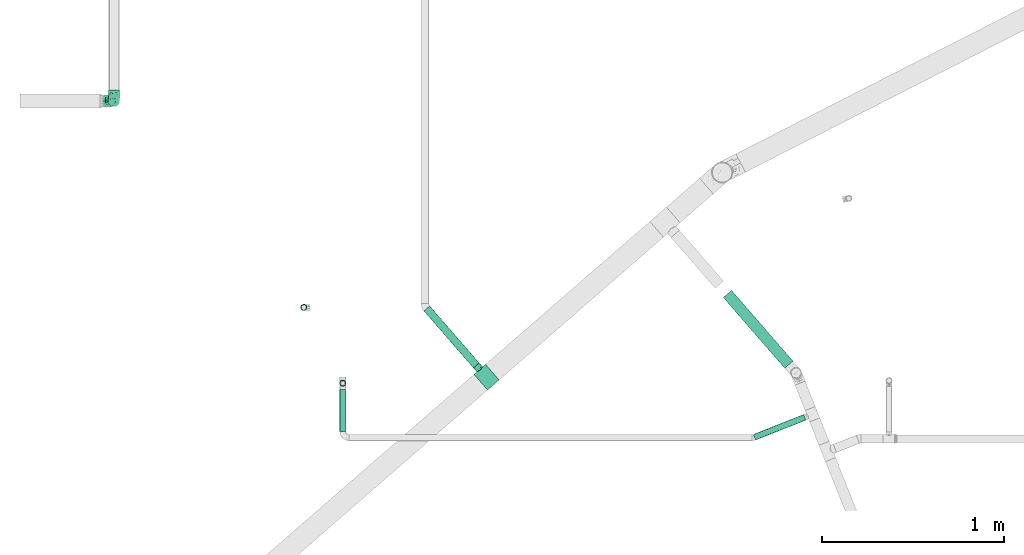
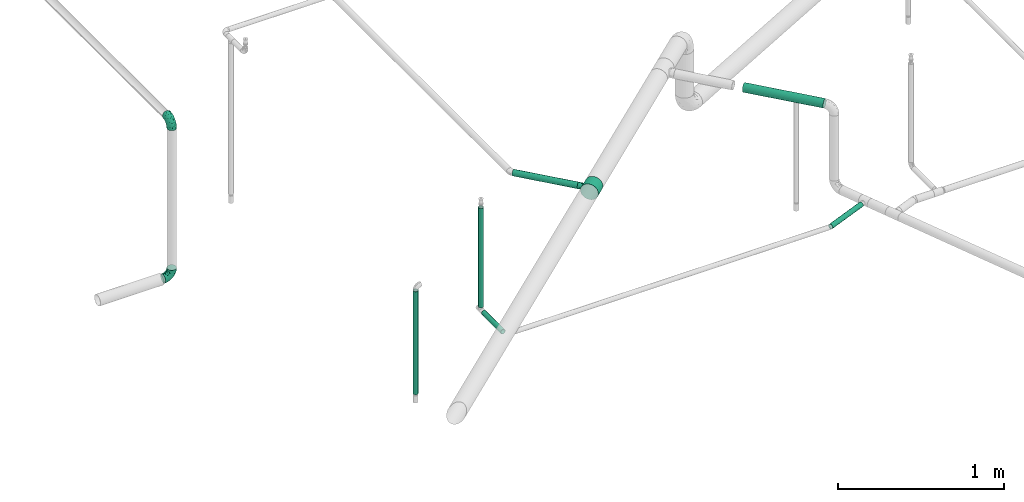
# One storey, part 8 of 94: 6 flow segments, 3 flow fittings.
"""IFC2X3 building model written with IfcOpenShell, lengths in millimetres."""

import ifcopenshell
import ifcopenshell.guid

model = None  # the IFC model being written
_history = None  # IfcOwnerHistory: only IFC2X3 demands one
_inside = {}  # id of a spatial element -> (the spatial element, [elements in it])
_under = {}  # id of a project, library or spatial element -> (it, [spatial elements below it])
_declared = {}  # id of a project -> (the project, [libraries it declares])
_typed = {}  # id of a type object -> (the type object, [elements of that type])
_made_of = {}  # id of a material, layer set ... -> (it, [elements and type objects made of it])


def new_model(schema):
    """Start an empty IFC model of exactly this schema.

    Asked for "IFC4X3", IfcOpenShell would pick the latest addendum, in which some entities
    have other attributes; the version numbers below select the first issue.
    IFC2X3 requires an IfcOwnerHistory on every rooted entity: one is made here for all.
    """
    global model, _history
    if schema == "IFC4X3":
        model = ifcopenshell.file(schema_version=(4, 3, 0, 0))
    else:
        model = ifcopenshell.file(schema=schema)
    _inside.clear()
    _under.clear()
    _declared.clear()
    _typed.clear()
    _made_of.clear()
    _history = None
    if model.schema == "IFC2X3":
        org = make("IfcOrganization", Name="unknown")
        user = make(
            "IfcPersonAndOrganization",
            ThePerson=make("IfcPerson", FamilyName="unknown"),
            TheOrganization=org,
        )
        app = make(
            "IfcApplication",
            ApplicationDeveloper=org,
            Version="unknown",
            ApplicationFullName="unknown",
            ApplicationIdentifier="unknown",
        )
        _history = make(
            "IfcOwnerHistory",
            OwningUser=user,
            OwningApplication=app,
            ChangeAction="ADDED",
            CreationDate=0,
        )
    return model


def make(cls, **values):
    """One entity of the class cls with the attributes given. An attribute that is None is left unset."""
    return model.create_entity(
        cls, **{name: value for name, value in values.items() if value is not None}
    )


def entity(cls, *values):
    """Any entity or typed value of the class cls, its attributes in the order of the schema. None: left unset."""
    e = model.create_entity(cls)
    for i, value in enumerate(values):
        if value is not None:
            e[i] = value
    return e


def rooted(cls, **values):
    """An entity with a GlobalId (a new one), such as an element, a storey or a relation."""
    return make(cls, GlobalId=ifcopenshell.guid.new(), OwnerHistory=_history, **values)


def si_unit(unit_type, name, prefix=None):
    """IfcSIUnit, for example si_unit("LENGTHUNIT", "METRE", prefix="MILLI")."""
    return make("IfcSIUnit", UnitType=unit_type, Prefix=prefix, Name=name)


def converted_unit(unit_type, name, factor, base, dimensions=None, offset=None):
    """IfcConversionBasedUnit, such as the inch: factor (a typed value) times the base unit."""
    return make(
        "IfcConversionBasedUnit"
        if offset is None
        else "IfcConversionBasedUnitWithOffset",
        ConversionOffset=offset,
        Dimensions=None
        if dimensions is None
        else entity("IfcDimensionalExponents", *dimensions),
        UnitType=unit_type,
        Name=name,
        ConversionFactor=make(
            "IfcMeasureWithUnit", ValueComponent=factor, UnitComponent=base
        ),
    )


def derived_unit(unit_type, elements):
    """IfcDerivedUnit: a product of units, each with its exponent."""
    return make(
        "IfcDerivedUnit",
        Elements=[
            make("IfcDerivedUnitElement", Unit=unit, Exponent=power)
            for unit, power in elements
        ],
        UnitType=unit_type,
    )


def assignment(units):
    """IfcUnitAssignment: the units of a project."""
    return None if units is None else make("IfcUnitAssignment", Units=units)


def point(xyz):
    """IfcCartesianPoint."""
    return None if xyz is None else make("IfcCartesianPoint", Coordinates=xyz)


def direction(xyz):
    """IfcDirection."""
    return None if xyz is None else make("IfcDirection", DirectionRatios=xyz)


def frame(location, z_axis=None, x_axis=None):
    """IfcAxis2Placement3D, a coordinate frame: its origin and axes. An axis left out is left unset."""
    return make(
        "IfcAxis2Placement3D",
        Location=point(location),
        Axis=direction(z_axis),
        RefDirection=direction(x_axis),
    )


def frame_2d(location, x_axis=None):
    """IfcAxis2Placement2D, a coordinate frame in the plane: its origin and x axis."""
    return make(
        "IfcAxis2Placement2D", Location=point(location), RefDirection=direction(x_axis)
    )


def origin_with_axes():
    """The frame at (0, 0, 0) with the z axis (0, 0, 1) and the x axis (1, 0, 0) written out."""
    return frame((0.0, 0.0, 0.0), z_axis=(0.0, 0.0, 1.0), x_axis=(1.0, 0.0, 0.0))


def origin_2d_with_axis():
    """The frame at (0, 0) in the plane with the x axis (1, 0) written out."""
    return frame_2d((0.0, 0.0), x_axis=(1.0, 0.0))


def place(relative_to, where):
    """IfcLocalPlacement: puts the frame where relative to a parent placement (None: the world)."""
    return make(
        "IfcLocalPlacement", PlacementRelTo=relative_to, RelativePlacement=where
    )


def context(
    kind, dimensions, precision=None, world=None, true_north=None, identifier=None
):
    """IfcGeometricRepresentationContext, for example the 3D "Model" context."""
    return make(
        "IfcGeometricRepresentationContext",
        ContextIdentifier=identifier,
        ContextType=kind,
        CoordinateSpaceDimension=dimensions,
        Precision=precision,
        WorldCoordinateSystem=world,
        TrueNorth=true_north,
    )


def subcontext(parent, identifier, kind, view, scale=None):
    """IfcGeometricRepresentationSubContext, for example "Body" below "Model"."""
    return make(
        "IfcGeometricRepresentationSubContext",
        ContextIdentifier=identifier,
        ContextType=kind,
        ParentContext=parent,
        TargetScale=scale,
        TargetView=view,
    )


def project(units=None, contexts=None):
    """IfcProject with its units and contexts."""
    return rooted(
        "IfcProject",
        Name="project",
        RepresentationContexts=contexts,
        UnitsInContext=assignment(units),
    )


def spatial(cls, under=None, at=None, **own):
    """A site, building, storey or space (cls), placed at a placement, below another one or the project."""
    s = rooted(cls, ObjectPlacement=at, **own)
    if under is not None:
        _under.setdefault(under.id(), (under, []))[1].append(s)
    return s


def profile(cls, at=None, kind="AREA", **sizes):
    """A parametric profile (cls). Its sizes go by their IFC names, for example OverallWidth=200.0."""
    return make(cls, ProfileType=kind, Position=at, **sizes)


def hollow_circle(**sizes):
    """IfcCircleHollowProfileDef."""
    return profile("IfcCircleHollowProfileDef", **sizes)


def extrude(swept, where, along, depth):
    """IfcExtrudedAreaSolid: the profile swept, set in the frame where, extruded along a direction by depth."""
    return make(
        "IfcExtrudedAreaSolid",
        SweptArea=swept,
        Position=where,
        ExtrudedDirection=direction(along),
        Depth=depth,
    )


def faces_of(points, faces, orient=None, outer=None):
    """IfcFace entities. A face is a list of loops; a loop is a list of indices into points, from 0.

    orient and outer hold one flag for each loop. By default every Orientation is true, the
    first loop of a face is its IfcFaceOuterBound and the others are IfcFaceBound.
    """
    made = []
    for i, loops in enumerate(faces):
        bounds = []
        for j, loop in enumerate(loops):
            is_outer = j == 0 if outer is None else outer[i][j]
            bounds.append(
                make(
                    "IfcFaceOuterBound" if is_outer else "IfcFaceBound",
                    Bound=make("IfcPolyLoop", Polygon=[points[k] for k in loop]),
                    Orientation=True if orient is None else orient[i][j],
                )
            )
        made.append(make("IfcFace", Bounds=bounds))
    return made


def open_shell(faces, orient=None, outer=None):
    """The faces of one IfcOpenShell. surface_model builds it on its shared points."""
    return ("IfcOpenShell", faces, orient, outer)


def surface_model(cls, points, shells):
    """IfcFaceBasedSurfaceModel or IfcShellBasedSurfaceModel (cls): surfaces that need not close."""
    shared = [point(p) for p in points]
    made = [make(c, CfsFaces=faces_of(shared, fs, o, b)) for c, fs, o, b in shells]
    if cls == "IfcFaceBasedSurfaceModel":
        return make(cls, FbsmFaces=made)
    return make(cls, SbsmBoundary=made)


def shape(context_of_items, identifier, shape_type, items):
    """IfcShapeRepresentation: the items that make up one representation, for example the "Body"."""
    return make(
        "IfcShapeRepresentation",
        ContextOfItems=context_of_items,
        RepresentationIdentifier=identifier,
        RepresentationType=shape_type,
        Items=items,
    )


def source(mapping_origin, context_of_items, identifier, shape_type, items):
    """IfcRepresentationMap: a shape defined once, which mapped items show again and again."""
    return make(
        "IfcRepresentationMap",
        MappingOrigin=mapping_origin,
        MappedRepresentation=shape(context_of_items, identifier, shape_type, items),
    )


def transform(
    local_origin,
    x_axis=None,
    y_axis=None,
    z_axis=None,
    scale=None,
    scale2=None,
    scale3=None,
    uniform=True,
):
    """IfcCartesianTransformationOperator3D, or its non-uniform kind. x_axis, y_axis, z_axis: its Axis1, 2, 3."""
    if uniform:
        return make(
            "IfcCartesianTransformationOperator3D",
            Axis1=direction(x_axis),
            Axis2=direction(y_axis),
            LocalOrigin=point(local_origin),
            Scale=scale,
            Axis3=direction(z_axis),
        )
    return make(
        "IfcCartesianTransformationOperator3DnonUniform",
        Axis1=direction(x_axis),
        Axis2=direction(y_axis),
        LocalOrigin=point(local_origin),
        Scale=scale,
        Axis3=direction(z_axis),
        Scale2=scale2,
        Scale3=scale3,
    )


def mapped(mapping_source, mapping_target):
    """IfcMappedItem: shows the shape of a source again, moved by a transform."""
    return make(
        "IfcMappedItem", MappingSource=mapping_source, MappingTarget=mapping_target
    )


def made_of(thing, what):
    """Note that an element or type object is made of a material, layer set ...; save() writes the relation."""
    if what is not None:
        _made_of.setdefault(what.id(), (what, []))[1].append(thing)
    return thing


def type_object(cls, material=None, **own):
    """A type object (cls), such as IfcWallType, which elements share."""
    return made_of(rooted(cls, **own), material)


def element(
    cls,
    number,
    at=None,
    inside=None,
    cuts=None,
    type_object=None,
    material=None,
    context=None,
    identifier="Body",
    shape_type=None,
    held_by="IfcProductDefinitionShape",
    body=None,
    shapes=None,
    **own,
):
    """One element of the class cls, such as IfcWall. Its Tag is "e" and its number.

    at: its placement. inside: the storey or other place that contains it. cuts: it is an
    opening in that element (IfcRelVoidsElement). A single representation is given by context,
    identifier, shape_type and body (its items); several are given by shapes. held_by: the class
    of the entity that holds the representations. save() writes the other relations.
    """
    e = rooted(cls, Tag="e%d" % number, ObjectPlacement=at, **own)
    if body is not None:
        shapes = [shape(context, identifier, shape_type, body)]
    if shapes is not None:
        e.Representation = make(held_by, Representations=shapes)
    if inside is not None:
        _inside.setdefault(inside.id(), (inside, []))[1].append(e)
    if cuts is not None:
        rooted(
            "IfcRelVoidsElement", RelatingBuildingElement=cuts, RelatedOpeningElement=e
        )
    if type_object is not None:
        _typed.setdefault(type_object.id(), (type_object, []))[1].append(e)
    return made_of(e, material)


def aggregate(whole, parts):
    """IfcRelAggregates: a whole, such as a stair, and the parts it consists of."""
    return rooted("IfcRelAggregates", RelatingObject=whole, RelatedObjects=parts)


def save(model, path):
    """Write the relations noted so far, then the file.

    IfcRelAggregates (storeys below a building ...), IfcRelContainedInSpatialStructure (elements
    in a storey), IfcRelDefinesByType, IfcRelAssociatesMaterial and IfcRelDeclares: one each for
    every whole, place, type object, material and project.
    """
    for whole, parts in _under.values():
        aggregate(whole, parts)
    for where, things in _inside.values():
        rooted(
            "IfcRelContainedInSpatialStructure",
            RelatedElements=things,
            RelatingStructure=where,
        )
    for kind, things in _typed.values():
        rooted("IfcRelDefinesByType", RelatedObjects=things, RelatingType=kind)
    for what, things in _made_of.values():
        rooted("IfcRelAssociatesMaterial", RelatedObjects=things, RelatingMaterial=what)
    for by, libraries in _declared.values():
        rooted("IfcRelDeclares", RelatingContext=by, RelatedDefinitions=libraries)
    model.write(path)


model = new_model("IFC2X3")

# Units and contexts
model_context = context("Model", 3, precision=0.01, world=frame((0.0, 4.29681676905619e-09, 0.0)), true_north=direction((4.01073788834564e-13, 1.0)))
plan_context = context("Plan", 3, precision=0.01, world=frame((0.0, 4.29681676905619e-09, 0.0)), true_north=direction((4.01073788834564e-13, 1.0)))
body_context = subcontext(model_context, "Body", "Model", "MODEL_VIEW")
ifc_project = project(units=[converted_unit("PLANEANGLEUNIT", "DEGREE", entity("IfcPositiveLengthMeasure", 0.0174532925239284), si_unit("PLANEANGLEUNIT", "RADIAN"), dimensions=[0, 0, 0, 0, 0, 0, 0]), si_unit("AREAUNIT", "SQUARE_METRE"), si_unit("LENGTHUNIT", "METRE", prefix="MILLI"), si_unit("MASSUNIT", "GRAM", prefix="KILO"), si_unit("POWERUNIT", "WATT"), si_unit("PRESSUREUNIT", "PASCAL", prefix="KILO"), si_unit("FORCEUNIT", "NEWTON", prefix="KILO"), si_unit("ELECTRICVOLTAGEUNIT", "VOLT"), si_unit("ELECTRICCURRENTUNIT", "AMPERE"), si_unit("THERMODYNAMICTEMPERATUREUNIT", "DEGREE_CELSIUS"), si_unit("TIMEUNIT", "SECOND"), si_unit("VOLUMEUNIT", "CUBIC_METRE"), derived_unit("LINEARVELOCITYUNIT", [(si_unit("LENGTHUNIT", "METRE"), 1), (si_unit("TIMEUNIT", "SECOND"), -1)]), derived_unit("VOLUMETRICFLOWRATEUNIT", [(si_unit("VOLUMEUNIT", "CUBIC_METRE"), 1), (si_unit("TIMEUNIT", "SECOND"), -1)]), derived_unit("THERMALTRANSMITTANCEUNIT", [(si_unit("POWERUNIT", "WATT"), 1), (si_unit("THERMODYNAMICTEMPERATUREUNIT", "KELVIN"), -1), (si_unit("AREAUNIT", "SQUARE_METRE"), -1)]), derived_unit("SOUNDPRESSUREUNIT", [(si_unit("PRESSUREUNIT", "PASCAL"), 1)])], contexts=[model_context, plan_context])

# Site, building, storey
site_placement = place(None, frame((0.0, -4.29681676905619e-09, 0.0), z_axis=(0.0, 0.0, 1.0), x_axis=(1.0, 0.0, 0.0)))
site = spatial("IfcSite", under=ifc_project, at=site_placement, CompositionType="ELEMENT")
building_placement = place(site_placement, frame((0.0, 4.29681676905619e-09, 0.0), z_axis=(0.0, 0.0, 1.0), x_axis=(1.0, 0.0, 0.0)))
building = spatial("IfcBuilding", under=site, at=building_placement, Name="mc-building", CompositionType="ELEMENT")
storey_placement = place(building_placement, frame((0.0, 0.0, 210900.0), z_axis=(0.0, 0.0, 1.0), x_axis=(1.0, 0.0, 0.0)))
storey = spatial("IfcBuildingStorey", under=building, at=storey_placement, Name="Nivå F", CompositionType="ELEMENT", Elevation=210900.0)

# Flow fittings
pipe_fitting_type_1 = type_object("IfcPipeFittingType", Name="magi_pipe_fe_elbow_short_001", PredefinedType="BEND")
shared_shape_1 = source(origin_with_axes(), body_context, "Body", "SurfaceModel", [
    surface_model("IfcShellBasedSurfaceModel", [(-60.4, 15.1, -26.15397), (-60.4, 7.81634, -29.17096), (-60.4, 0.0, -30.2), (-60.4, -21.35462, -21.35462), (-60.4, 26.15397, -15.1), (-60.4, 21.35462, -21.35462), (-60.4, 29.17096, -7.81634), (-60.4, -15.1, -26.15397), (-60.4, -7.81634, -29.17096), (-60.4, -26.15397, -15.1), (-60.4, -29.17096, -7.81634), (-60.4, -30.2, 0.0), (-60.4, -29.17096, 7.81634), (-60.4, 29.17096, 7.81634), (-60.4, -21.35462, 21.35462), (-60.4, 26.15397, 15.1), (-60.4, 21.35462, 21.35462), (-60.4, 7.81634, 29.17096), (-60.4, 15.1, 26.15397), (-60.4, -26.15397, 15.1), (-60.4, -7.81634, 29.17096), (-60.4, 0.0, 30.2), (-60.4, -15.1, 26.15397), (-60.4, 30.2, 0.0), (0.0, 60.4, -30.2), (-7.81634, 60.4, -29.17096), (-15.1, 60.4, -26.15397), (-26.15397, 60.4, -15.1), (-29.17096, 60.4, -7.81634), (-21.35462, 60.4, -21.35462), (29.17096, 60.4, -7.81634), (7.81634, 60.4, -29.17096), (21.35462, 60.4, -21.35462), (15.1, 60.4, -26.15397), (26.15397, 60.4, -15.1), (29.17096, 60.4, 7.81634), (30.2, 60.4, 0.0), (-29.17096, 60.4, 7.81634), (21.35462, 60.4, 21.35462), (-21.35462, 60.4, 21.35462), (-26.15397, 60.4, 15.1), (-15.1, 60.4, 26.15397), (-7.81634, 60.4, 29.17096), (26.15397, 60.4, 15.1), (15.1, 60.4, 26.15397), (0.0, 60.4, 30.2), (7.81634, 60.4, 29.17096), (-30.2, 60.4, 0.0), (-40.79975, -26.48639, 9.49143), (-44.2927, -23.46036, 16.95222), (-32.40306, -25.76572, 0.0), (-45.54716, -27.84754, 0.0), (-7.73382, -10.42985, 11.64553), (-2.102, -8.06735, 6.35117), (1.74449, -1.74448, 12.51332), (-46.13593, -4.00068, 29.68351), (-42.2898, 4.62925, 30.14853), (10.31662, 7.37496, 11.34434), (18.44156, 24.57514, 15.02148), (7.07276, 10.95732, 19.27498), (-30.06693, -0.27102, 29.27145), (-44.17726, -11.39441, 27.16031), (-23.4551, -7.13383, 25.24246), (-38.74025, -17.25266, 22.43475), (-27.059, -23.14697, 6.2131), (-19.77486, -19.33133, 0.0), (-10.95732, -7.07276, 19.27498), (-5.39458, 5.39458, 24.69106), (-29.52069, 48.20084, 13.12597), (-25.22813, 47.01796, 19.8404), (-11.27311, 52.093, 28.2877), (-4.13904, 45.17494, 30.12582), (-46.55352, 11.8443, 28.52822), (-7.88305, 20.22717, 29.65331), (-15.00576, 5.54025, 28.20072), (-3.0852, 16.31623, 27.75343), (-52.24998, 18.2886, 24.60768), (-10.49591, 29.69865, 30.14582), (-22.36958, 22.36958, 29.4662), (-17.98262, 13.19715, 30.04443), (-47.74519, 32.16745, 6.63994), (-48.21585, 29.51581, 13.12396), (-37.49729, 37.49729, 11.28901), (-47.20967, 25.1754, 19.81929), (17.25266, 38.74025, 22.43475), (-31.32046, 40.03273, 17.09289), (11.39441, 44.17725, 27.16031), (23.46036, 44.2927, 16.95222), (26.48639, 40.79975, 9.49143), (-7.14666, -12.89694, 0.0), (-14.66463, -16.61192, 7.82462), (4.00068, 46.13593, 29.68351), (-33.18602, 12.93608, 29.65955), (-29.63414, 7.40029, 30.18711), (19.33133, 19.77486, 0.0), (23.14697, 27.059, 6.2131), (16.61192, 14.66463, 7.82462), (27.84754, 45.54716, 0.0), (-32.10611, 20.49149, 27.93323), (-24.57514, -18.44156, 15.02148), (-21.89487, 39.03366, 25.38224), (-18.45005, 50.6405, 24.73297), (-31.78933, 48.71949, 6.47886), (-37.84917, 39.61073, 5.315), (13.91334, 24.32737, 20.46816), (7.13383, 23.4551, 25.24246), (-34.24603, 45.3, 0.0), (-27.95749, 31.89166, 24.81537), (-41.58677, 20.50028, 25.43151), (-0.46157, 0.46157, 17.84239), (-17.23338, 31.26213, 29.03145), (-24.05994, 29.23812, 27.47858), (-13.06094, 40.92174, 28.76128), (-31.83392, 33.72702, 21.39203), (-38.78737, 32.45032, 16.84022), (0.27102, 30.06693, 29.27145), (-24.21469, -13.23741, 21.05734), (8.23548, 2.19333, 6.02161), (25.76572, 32.40306, 0.0), (12.89694, 7.14666, 0.0), (-45.3, 34.24603, 0.0), (2.87514, -2.87514, 0.0), (-44.53432, 26.00869, -20.11577), (-48.18822, 29.5248, -13.12766), (-24.67192, -7.62159, -25.33714), (-26.22398, -0.37671, -28.72374), (-12.13397, -0.50536, -24.74577), (-47.80891, 3.81859, -30.10171), (-44.05719, -27.03585, -9.84546), (-37.94552, -22.39569, -16.35738), (-28.81663, -22.64668, -10.132), (-43.93799, 12.32789, -28.63778), (-33.27, 7.1392, -30.19348), (-26.0087, 44.53432, -20.11577), (-48.89164, 31.68872, -6.60822), (-18.95522, 47.41145, -24.9828), (-12.32789, 43.93799, -28.63778), (-38.42778, 38.42778, -7.21049), (18.04263, 43.69152, -22.80146), (10.42233, 38.24532, -26.85918), (11.90576, 51.00473, -27.48545), (-5.88381, -10.62327, -7.95335), (-5.9694, -7.83116, -13.76182), (3.24899, -2.56331, -7.96861), (-17.62229, 16.32998, -30.18286), (-28.62959, 17.86952, -29.30113), (-47.41145, 18.95522, -24.98279), (-50.84455, -24.04089, -17.54629), (-29.38053, 34.30665, -22.74674), (-27.91099, 27.91099, -26.51666), (-36.91219, 25.51094, -23.99233), (2.63361, -0.55507, -12.94367), (-43.69152, -18.04263, -22.80146), (22.39569, 37.94552, -16.35738), (27.03585, 44.05719, -9.84546), (22.64668, 28.81663, -10.132), (-51.00473, -11.90576, -27.48545), (3.80785, 44.49426, -29.64782), (-19.0921, -14.69952, -16.47487), (-22.5489, -12.31934, -21.1263), (-10.94772, -7.46239, -18.88204), (-32.95885, -13.78948, -23.71249), (-38.24532, -10.42233, -26.85918), (-44.49427, -3.80785, -29.64782), (-22.6301, 37.15314, -25.58239), (-31.68872, 48.89164, -6.60822), (-3.8186, 47.80891, -30.10171), (-10.66133, 10.66133, -28.51691), (0.37671, 26.22398, -28.72374), (1.27136, 14.18619, -25.18541), (-29.5248, 48.18821, -13.12766), (-36.27113, 36.27113, -14.88553), (24.04089, 50.84455, -17.54629), (17.50188, 24.2636, -16.21902), (9.73525, 11.44907, -16.75087), (12.31934, 22.5489, -21.1263), (6.24176, 25.78208, -26.38266), (-7.1392, 33.27, -30.19348), (-36.7166, 19.4356, -27.21946), (-18.00754, 29.38864, -29.15505), (-0.28629, 0.28629, -17.49884), (-13.98848, -16.88492, -5.19509), (15.48569, 15.00432, -11.24742), (16.88492, 13.98848, -5.19509), (3.55782, 9.20508, -21.18402), (-15.00432, -15.48569, -11.24742)], [open_shell([[[0, 1, 2]], [[0, 2, 3]], [[4, 0, 3]], [[5, 0, 4]], [[6, 4, 3]], [[7, 3, 8]], [[3, 2, 8]], [[9, 10, 3]], [[3, 10, 6]], [[11, 12, 10]], [[13, 6, 10]], [[13, 10, 14]], [[15, 13, 16]], [[17, 18, 16]], [[13, 17, 16]], [[17, 13, 14]], [[19, 14, 12]], [[12, 14, 10]], [[20, 21, 22]], [[17, 14, 22]], [[17, 22, 21]], [[13, 23, 6]], [[24, 25, 26]], [[24, 26, 27]], [[27, 28, 24]], [[27, 26, 29]], [[24, 28, 30]], [[31, 32, 33]], [[31, 24, 32]], [[32, 30, 34]], [[24, 30, 32]], [[30, 35, 36]], [[30, 28, 37]], [[38, 30, 37]], [[39, 37, 40]], [[39, 41, 42]], [[39, 42, 37]], [[38, 37, 42]], [[35, 38, 43]], [[30, 38, 35]], [[44, 45, 46]], [[44, 38, 42]], [[45, 44, 42]], [[28, 47, 37]], [[48, 49, 19]], [[50, 48, 51]], [[52, 53, 54]], [[12, 48, 19]], [[12, 51, 48]], [[21, 55, 56]], [[19, 49, 14]], [[57, 58, 59]], [[60, 61, 62]], [[63, 22, 14]], [[63, 61, 22]], [[64, 50, 65]], [[62, 66, 67]], [[40, 68, 69]], [[42, 70, 71]], [[17, 72, 18]], [[73, 74, 75]], [[18, 76, 16]], [[20, 55, 21]], [[77, 78, 79]], [[80, 81, 82]], [[15, 83, 81]], [[84, 38, 44]], [[23, 13, 80]], [[13, 15, 81]], [[68, 85, 69]], [[83, 15, 16]], [[21, 56, 17]], [[44, 86, 84]], [[16, 76, 83]], [[87, 58, 88]], [[40, 37, 68]], [[89, 90, 65]], [[45, 91, 46]], [[65, 90, 64]], [[45, 42, 71]], [[92, 93, 79]], [[88, 35, 43]], [[43, 38, 87]], [[87, 88, 43]], [[94, 95, 96]], [[88, 97, 35]], [[98, 72, 92]], [[49, 99, 63]], [[69, 100, 101]], [[82, 102, 103]], [[104, 105, 59]], [[106, 102, 47]], [[98, 107, 108]], [[102, 82, 68]], [[86, 44, 46]], [[69, 39, 40]], [[109, 54, 57]], [[110, 100, 111]], [[22, 61, 20]], [[101, 41, 39]], [[70, 42, 41]], [[112, 77, 71]], [[84, 86, 105]], [[96, 95, 58]], [[100, 69, 113]], [[72, 17, 56]], [[108, 113, 83]], [[81, 114, 82]], [[112, 110, 77]], [[91, 71, 115]], [[62, 61, 63]], [[55, 61, 60]], [[116, 99, 66]], [[74, 62, 67]], [[91, 86, 46]], [[105, 86, 115]], [[75, 105, 115]], [[109, 67, 66]], [[59, 105, 67]], [[48, 64, 99]], [[99, 49, 48]], [[63, 14, 49]], [[38, 84, 87]], [[58, 87, 84]], [[92, 72, 56]], [[76, 72, 108]], [[102, 68, 37]], [[82, 114, 85]], [[98, 111, 107]], [[112, 70, 101]], [[114, 83, 113]], [[82, 103, 80]], [[92, 79, 78]], [[115, 71, 77]], [[74, 79, 60]], [[77, 79, 73]], [[71, 91, 45]], [[86, 91, 115]], [[61, 55, 20]], [[56, 55, 60]], [[57, 54, 117]], [[104, 59, 58]], [[116, 66, 62]], [[52, 99, 90]], [[12, 11, 51]], [[97, 88, 118]], [[97, 36, 35]], [[53, 90, 89]], [[90, 53, 52]], [[94, 96, 119]], [[88, 95, 118]], [[117, 54, 53]], [[92, 56, 93]], [[98, 92, 78]], [[111, 98, 78]], [[72, 98, 108]], [[110, 111, 78]], [[107, 111, 100]], [[47, 102, 37]], [[102, 106, 103]], [[106, 120, 103]], [[103, 120, 80]], [[23, 80, 120]], [[13, 81, 80]], [[56, 60, 93]], [[60, 79, 93]], [[117, 121, 119]], [[121, 117, 53]], [[53, 89, 121]], [[119, 96, 117]], [[117, 96, 57]], [[77, 110, 78]], [[100, 110, 112]], [[83, 114, 81]], [[85, 114, 113]], [[69, 85, 113]], [[82, 85, 68]], [[109, 52, 54]], [[99, 52, 66]], [[69, 101, 39]], [[112, 101, 100]], [[100, 113, 107]], [[108, 107, 113]], [[62, 74, 60]], [[75, 74, 67]], [[105, 75, 67]], [[73, 75, 115]], [[77, 73, 115]], [[74, 73, 79]], [[99, 64, 90]], [[50, 64, 48]], [[118, 95, 94]], [[58, 95, 88]], [[58, 57, 96]], [[109, 57, 59]], [[72, 76, 18]], [[83, 76, 108]], [[101, 70, 41]], [[71, 70, 112]], [[58, 84, 104]], [[105, 104, 84]], [[67, 109, 59]], [[52, 109, 66]], [[62, 63, 116]], [[99, 116, 63]], [[122, 4, 123]], [[124, 125, 126]], [[2, 1, 127]], [[128, 129, 130]], [[127, 131, 132]], [[27, 29, 133]], [[120, 134, 23]], [[135, 26, 136]], [[123, 134, 137]], [[138, 139, 140]], [[122, 5, 4]], [[141, 142, 143]], [[144, 132, 145]], [[131, 0, 146]], [[128, 9, 147]], [[148, 149, 150]], [[128, 51, 10]], [[142, 151, 143]], [[152, 3, 7]], [[153, 154, 155]], [[156, 152, 7]], [[31, 157, 24]], [[158, 159, 160]], [[147, 9, 3]], [[129, 152, 161]], [[156, 7, 8]], [[162, 163, 125]], [[154, 34, 30]], [[120, 106, 137]], [[149, 148, 164]], [[47, 28, 165]], [[163, 8, 2]], [[4, 6, 123]], [[25, 166, 136]], [[167, 168, 169]], [[170, 133, 171]], [[25, 24, 166]], [[33, 32, 138]], [[157, 31, 140]], [[28, 27, 170]], [[32, 34, 172]], [[26, 135, 29]], [[132, 131, 145]], [[31, 33, 140]], [[173, 174, 175]], [[169, 168, 176]], [[25, 136, 26]], [[175, 138, 173]], [[168, 177, 157]], [[163, 162, 156]], [[153, 172, 154]], [[9, 128, 10]], [[154, 97, 118]], [[131, 178, 145]], [[0, 5, 146]], [[175, 139, 138]], [[155, 118, 94]], [[131, 1, 0]], [[146, 178, 131]], [[170, 137, 165]], [[149, 179, 145]], [[171, 133, 148]], [[160, 180, 142]], [[65, 181, 89]], [[170, 165, 28]], [[137, 171, 123]], [[172, 138, 32]], [[138, 153, 173]], [[168, 157, 139]], [[166, 157, 177]], [[176, 175, 169]], [[168, 167, 144]], [[154, 30, 97]], [[155, 182, 173]], [[162, 124, 161]], [[147, 152, 129]], [[127, 163, 2]], [[132, 144, 125]], [[132, 125, 163]], [[125, 167, 126]], [[129, 158, 130]], [[30, 36, 97]], [[143, 182, 183]], [[169, 126, 167]], [[5, 122, 146]], [[178, 150, 149]], [[136, 179, 164]], [[133, 29, 135]], [[123, 6, 134]], [[122, 123, 171]], [[133, 170, 27]], [[137, 170, 171]], [[184, 175, 174]], [[180, 160, 126]], [[126, 169, 184]], [[126, 159, 124]], [[51, 128, 50]], [[51, 11, 10]], [[131, 127, 1]], [[163, 127, 132]], [[157, 166, 24]], [[136, 166, 177]], [[164, 179, 149]], [[144, 167, 125]], [[179, 144, 145]], [[168, 144, 177]], [[136, 177, 179]], [[144, 179, 177]], [[141, 121, 89]], [[89, 181, 141]], [[154, 118, 155]], [[183, 155, 94]], [[143, 183, 119]], [[119, 183, 94]], [[155, 183, 182]], [[181, 130, 185]], [[50, 128, 130]], [[130, 181, 65]], [[50, 130, 65]], [[141, 181, 185]], [[142, 141, 185]], [[143, 121, 141]], [[158, 160, 142]], [[142, 180, 151]], [[158, 142, 185]], [[126, 160, 159]], [[130, 158, 185]], [[129, 159, 158]], [[23, 134, 6]], [[120, 137, 134]], [[137, 106, 165]], [[47, 165, 106]], [[174, 151, 180]], [[182, 143, 151]], [[150, 146, 122]], [[149, 145, 178]], [[146, 150, 178]], [[122, 171, 148]], [[148, 150, 122]], [[164, 133, 135]], [[133, 164, 148]], [[164, 135, 136]], [[138, 140, 33]], [[157, 140, 139]], [[154, 172, 34]], [[138, 172, 153]], [[163, 156, 8]], [[152, 156, 162]], [[152, 147, 3]], [[128, 147, 129]], [[155, 173, 153]], [[174, 173, 182]], [[151, 174, 182]], [[174, 180, 184]], [[126, 184, 180]], [[175, 184, 169]], [[168, 139, 176]], [[175, 176, 139]], [[161, 124, 159]], [[125, 124, 162]], [[129, 161, 159]], [[162, 161, 152]], [[143, 119, 121]]])]),
])
for number, where, z_axis, x_axis, name in (
    (1, (714955.83176, 442736.90247, 3350.0), (0.0, -1.0, 0.0), (1.0, 0.0, 0.0), "magi_pipe_fe_elbow_short_001"),
    (2, (714955.83176, 442736.90247, 4500.0), (-1.0, 0.0, 0.0), (0.0, 0.0, 1.0), "magi_pipe_fe_elbow_short_001"),
):
    element("IfcFlowFitting", number, at=place(storey_placement, frame(where, z_axis=z_axis, x_axis=x_axis)), inside=storey, type_object=pipe_fitting_type_1, Name=name, context=body_context, shape_type="MappedRepresentation", body=[
        mapped(shared_shape_1, transform((0.0, 0.0, 0.0), scale=1.0)),
    ])
pipe_fitting_type_2 = type_object("IfcPipeFittingType", Name="magi_pipe_fe_tee_centric_90_NOR", PredefinedType="JUNCTION")
shared_shape_2 = source(origin_with_axes(), body_context, "Body", "SurfaceModel", [
    surface_model("IfcShellBasedSurfaceModel", [(-42.4, 0.0, -57.2), (-42.4, -14.80445, -55.25096), (-42.4, 14.80445, -55.25096), (-42.4, 28.6, -49.53665), (-42.4, 40.44651, -40.44651), (-42.4, 55.25096, -14.80445), (-42.4, 49.53665, -28.6), (-42.4, -28.6, -49.53665), (-42.4, -40.44651, -40.44651), (-42.4, -49.53665, -28.6), (-42.4, -55.25096, -14.80445), (-42.4, -57.2, 0.0), (-42.4, -28.6, 49.53665), (-42.4, 49.53665, 28.6), (-42.4, 55.25096, 14.80445), (-42.4, 57.2, 0.0), (-42.4, 40.44651, 40.44651), (-42.4, 14.80445, 55.25096), (-42.4, 28.6, 49.53665), (-42.4, 0.0, 57.2), (-42.4, -55.25096, 14.80445), (-42.4, -49.53665, 28.6), (-42.4, -40.44651, 40.44651), (-42.4, -14.80445, 55.25096), (42.4, 14.80445, -55.25096), (42.4, -14.80445, -55.25096), (42.4, 0.0, -57.2), (42.4, 40.44651, -40.44651), (42.4, 28.6, -49.53665), (42.4, 49.53665, -28.6), (42.4, 55.25096, -14.80445), (42.4, -40.44651, -40.44651), (42.4, -28.6, -49.53665), (42.4, -49.53665, -28.6), (42.4, -55.25096, -14.80445), (42.4, -57.2, 0.0), (42.4, -28.6, 49.53665), (42.4, 57.2, 0.0), (42.4, 55.25096, 14.80445), (42.4, 49.53665, 28.6), (42.4, 0.0, 57.2), (42.4, 28.6, 49.53665), (42.4, 40.44651, 40.44651), (42.4, 14.80445, 55.25096), (42.4, -49.53665, 28.6), (42.4, -55.25096, 14.80445), (42.4, -40.44651, 40.44651), (42.4, -14.80445, 55.25096), (42.4, -56.22548, 7.40222), (21.2, -57.2, 0.0), (16.22454, -55.5485, 13.64567), (19.90462, -56.73265, 7.29699), (3.70812, -53.25552, 20.87319), (10.63496, -54.18028, 18.33951), (-16.23029, -55.55018, 13.63883), (-42.4, -56.22548, 7.40222), (-19.90518, -56.73285, 7.29545), (-21.2, -57.2, 0.0), (-10.63671, -54.18062, 18.33849), (-3.71383, -53.25592, 20.87217), (-42.4, -56.22548, -7.40222), (-19.90518, -56.73285, -7.29545), (16.22454, -55.5485, -13.64567), (42.4, -56.22548, -7.40222), (19.90462, -56.73265, -7.29699), (10.63496, -54.18028, -18.33951), (3.70812, -53.25552, -20.87319), (-3.71383, -53.25592, -20.87217), (-10.63671, -54.18062, -18.33849), (-16.23029, -55.55018, -13.63883), (14.99066, -85.8, -14.99066), (0.0, -85.8, -21.2), (5.48696, -85.8, -20.47763), (10.6, -85.8, -18.35974), (18.35974, -85.8, -10.6), (20.47763, -85.8, -5.48696), (-21.2, -85.8, 0.0), (-10.6, -85.8, 18.35974), (-5.48696, -85.8, -20.47763), (-14.99066, -85.8, -14.99066), (-10.6, -85.8, -18.35974), (-18.35974, -85.8, -10.6), (-20.47763, -85.8, -5.48696), (20.47763, -85.8, 5.48696), (18.35974, -85.8, 10.6), (10.6, -85.8, 18.35974), (14.99066, -85.8, 14.99066), (0.0, -85.8, 21.2), (5.48696, -85.8, 20.47763), (-14.99066, -85.8, 14.99066), (-18.35974, -85.8, 10.6), (-20.47763, -85.8, 5.48696), (-5.48696, -85.8, 20.47763), (21.2, -85.8, 0.0), (-20.55259, -56.96643, 3.64772), (-7.17527, -53.71827, 19.60533), (7.17154, -53.7179, 19.60635), (20.55231, -56.96633, 3.64849), (-0.00286, -53.25572, 20.87268), (20.55231, -56.96633, -3.64849), (7.17154, -53.7179, -19.60635), (-0.00286, -53.25572, -20.87268), (-7.17527, -53.71827, -19.60533), (-20.55259, -56.96643, -3.64772)], [open_shell([[[0, 1, 2]], [[3, 2, 4]], [[5, 6, 4]], [[2, 5, 4]], [[5, 2, 1]], [[7, 8, 1]], [[9, 1, 8]], [[10, 11, 9]], [[1, 9, 11]], [[12, 1, 11]], [[12, 5, 1]], [[13, 14, 15]], [[16, 13, 15]], [[17, 18, 16]], [[15, 17, 16]], [[19, 17, 15]], [[20, 21, 11]], [[21, 22, 11]], [[23, 19, 12]], [[22, 12, 11]], [[12, 19, 15]], [[15, 5, 12]], [[24, 25, 26]], [[27, 24, 28]], [[27, 29, 30]], [[27, 30, 24]], [[25, 24, 30]], [[25, 31, 32]], [[25, 30, 31]], [[30, 33, 31]], [[30, 34, 33]], [[35, 34, 30]], [[30, 36, 35]], [[37, 38, 39]], [[30, 39, 36]], [[40, 39, 41]], [[41, 39, 42]], [[40, 41, 43]], [[35, 44, 45]], [[46, 44, 35]], [[36, 40, 47]], [[35, 36, 46]], [[39, 40, 36]], [[37, 39, 30]], [[35, 48, 49]], [[50, 51, 48]], [[48, 45, 50]], [[52, 44, 21]], [[44, 53, 45]], [[53, 44, 52]], [[45, 53, 50]], [[44, 46, 22]], [[54, 55, 56]], [[57, 55, 11]], [[57, 56, 55]], [[54, 20, 55]], [[58, 59, 21]], [[58, 21, 20]], [[59, 52, 21]], [[44, 22, 21]], [[58, 20, 54]], [[49, 48, 51]], [[46, 12, 22]], [[19, 47, 40]], [[23, 36, 47]], [[17, 40, 43]], [[39, 38, 14]], [[16, 41, 42]], [[13, 42, 39]], [[43, 41, 18]], [[15, 38, 37]], [[12, 36, 23]], [[23, 47, 19]], [[17, 19, 40]], [[43, 18, 17]], [[18, 41, 16]], [[13, 16, 42]], [[14, 13, 39]], [[38, 15, 14]], [[36, 12, 46]], [[15, 37, 30]], [[30, 29, 5]], [[27, 6, 29]], [[1, 26, 25]], [[2, 28, 24]], [[26, 0, 24]], [[28, 4, 27]], [[32, 7, 25]], [[57, 60, 61]], [[6, 5, 29]], [[15, 30, 5]], [[27, 4, 6]], [[4, 28, 3]], [[3, 28, 2]], [[0, 2, 24]], [[1, 0, 26]], [[25, 7, 1]], [[32, 8, 7]], [[9, 31, 33]], [[62, 63, 64]], [[65, 66, 33]], [[33, 34, 65]], [[9, 33, 66]], [[35, 49, 63]], [[62, 34, 63]], [[64, 63, 49]], [[34, 62, 65]], [[67, 68, 9]], [[8, 31, 9]], [[68, 10, 9]], [[9, 66, 67]], [[61, 60, 69]], [[60, 10, 69]], [[60, 57, 11]], [[69, 10, 68]], [[31, 8, 32]], [[70, 71, 72]], [[70, 72, 73]], [[70, 74, 75]], [[70, 75, 71]], [[76, 71, 77]], [[78, 79, 80]], [[78, 71, 79]], [[81, 76, 82]], [[79, 71, 81]], [[71, 76, 81]], [[71, 75, 77]], [[83, 84, 75]], [[84, 85, 75]], [[85, 77, 75]], [[85, 84, 86]], [[87, 85, 88]], [[76, 89, 90]], [[91, 76, 90]], [[77, 87, 92]], [[77, 89, 76]], [[85, 87, 77]], [[75, 93, 83]], [[91, 94, 76]], [[87, 59, 92]], [[95, 77, 92]], [[95, 58, 77]], [[85, 96, 88]], [[91, 56, 94]], [[97, 93, 49]], [[56, 91, 90]], [[94, 57, 76]], [[56, 90, 54]], [[77, 58, 89]], [[92, 59, 95]], [[89, 58, 54]], [[89, 54, 90]], [[87, 52, 98]], [[85, 53, 96]], [[86, 53, 85]], [[51, 84, 83]], [[86, 84, 50]], [[52, 87, 88]], [[96, 52, 88]], [[98, 59, 87]], [[53, 86, 50]], [[50, 84, 51]], [[93, 97, 83]], [[97, 51, 83]], [[75, 99, 93]], [[70, 62, 74]], [[100, 65, 73]], [[75, 64, 99]], [[74, 64, 75]], [[65, 70, 73]], [[99, 49, 93]], [[64, 74, 62]], [[72, 66, 100]], [[65, 62, 70]], [[71, 67, 101]], [[80, 102, 78]], [[103, 76, 57]], [[102, 80, 68]], [[100, 73, 72]], [[103, 61, 82]], [[79, 68, 80]], [[61, 81, 82]], [[69, 79, 81]], [[67, 71, 78]], [[102, 67, 78]], [[101, 66, 71]], [[68, 79, 69]], [[69, 81, 61]], [[76, 103, 82]], [[71, 66, 72]]])]),
])
flow_fitting_placement = place(storey_placement, frame((717006.09084, 441216.54705, 4200.0), z_axis=(0.0, 0.0, 1.0), x_axis=(-0.754709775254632, -0.65605880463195, 0.0)))
element("IfcFlowFitting", 3, at=flow_fitting_placement, inside=storey, type_object=pipe_fitting_type_2, Name="magi_pipe_fe_tee_centric_90_NOR", context=body_context, shape_type="MappedRepresentation", body=[
    mapped(shared_shape_2, transform((0.0, 0.0, 0.0), scale=1.0)),
])

# Flow segments
pipe_segment_type = type_object("IfcPipeSegmentType", Name="Stålrør normaltykke", PredefinedType="RIGIDSEGMENT")
shared_shape_3 = source(origin_with_axes(), body_context, "Body", "SweptSolid", [
    extrude(hollow_circle(Radius=30.1, WallThickness=2.0, at=origin_2d_with_axis()), frame((0.0, 0.0, 0.0), z_axis=(1.0, 0.0, 0.0), x_axis=(0.0, 1.0, 0.0)), (0.0, 0.0, 1.0), 515.7),
])
flow_segment_1_placement = place(storey_placement, frame((718331.77384, 441674.83241, 4200.0), z_axis=(0.0, 0.0, 1.0), x_axis=(0.65605880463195, -0.754709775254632, 0.0)))
element("IfcFlowSegment", 4, at=flow_segment_1_placement, inside=storey, type_object=pipe_segment_type, Name="Stålrør normaltykke", context=body_context, shape_type="MappedRepresentation", body=[
    mapped(shared_shape_3, transform((0.0, 0.0, 0.0), scale=1.0)),
])
shared_shape_4 = source(origin_with_axes(), body_context, "Body", "SweptSolid", [
    extrude(hollow_circle(Radius=16.9, WallThickness=2.0, at=origin_2d_with_axis()), frame((0.0, 0.0, 0.0), z_axis=(1.0, 0.0, 0.0), x_axis=(0.0, 1.0, 0.0)), (0.0, 0.0, 1.0), 298.4),
])
flow_segment_2_placement = place(storey_placement, frame((718757.99072, 440996.08441, 3600.0), z_axis=(0.0, 0.0, 1.0), x_axis=(-0.929249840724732, -0.369451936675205, 0.0)))
element("IfcFlowSegment", 5, at=flow_segment_2_placement, inside=storey, type_object=pipe_segment_type, Name="Stålrør normaltykke", context=body_context, shape_type="MappedRepresentation", body=[
    mapped(shared_shape_4, transform((0.0, 0.0, 0.0), scale=1.0)),
])
shared_shape_5 = source(origin_with_axes(), body_context, "Body", "SweptSolid", [
    extrude(hollow_circle(Radius=16.9, WallThickness=2.0, at=origin_2d_with_axis()), frame((0.0, 0.0, 0.0), z_axis=(1.0, 0.0, 0.0), x_axis=(0.0, 1.0, 0.0)), (0.0, 0.0, 1.0), 232.4),
])
flow_segment_3_placement = place(storey_placement, frame((716214.70896, 440917.25685, 3600.0), z_axis=(0.0, 0.0, 1.0), x_axis=(0.0, 1.0, 0.0)))
element("IfcFlowSegment", 6, at=flow_segment_3_placement, inside=storey, type_object=pipe_segment_type, Name="Stålrør normaltykke", context=body_context, shape_type="MappedRepresentation", body=[
    mapped(shared_shape_5, transform((0.0, 0.0, 0.0), scale=1.0)),
])
shared_shape_6 = source(origin_with_axes(), body_context, "Body", "SweptSolid", [
    extrude(hollow_circle(Radius=16.9, WallThickness=2.0, at=origin_2d_with_axis()), frame((0.0, 0.0, 0.0), z_axis=(1.0, 0.0, 0.0), x_axis=(0.0, 1.0, 0.0)), (0.0, 0.0, 1.0), 732.3),
])
flow_segment_4_placement = place(storey_placement, frame((716214.70896, 441183.45685, 3625.35000000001), z_axis=(-1.0, 0.0, 0.0), x_axis=(0.0, 0.0, 1.0)))
element("IfcFlowSegment", 7, at=flow_segment_4_placement, inside=storey, type_object=pipe_segment_type, Name="Stålrør normaltykke", context=body_context, shape_type="MappedRepresentation", body=[
    mapped(shared_shape_6, transform((0.0, 0.0, 0.0), scale=1.0)),
])
shared_shape_7 = source(origin_with_axes(), body_context, "Body", "SweptSolid", [
    extrude(hollow_circle(Radius=21.2, WallThickness=2.0, at=origin_2d_with_axis()), frame((0.0, 0.0, 0.0), z_axis=(1.0, 0.0, 0.0), x_axis=(0.0, 1.0, 0.0)), (0.0, 0.0, 1.0), 415.5),
])
flow_segment_5_placement = place(storey_placement, frame((716949.80098, 441281.30113, 4200.0), z_axis=(0.0, 0.0, 1.0), x_axis=(-0.65605880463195, 0.754709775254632, 0.0)))
element("IfcFlowSegment", 8, at=flow_segment_5_placement, inside=storey, type_object=pipe_segment_type, Name="Stålrør normaltykke", context=body_context, shape_type="MappedRepresentation", body=[
    mapped(shared_shape_7, transform((0.0, 0.0, 0.0), scale=1.0)),
])
shared_shape_8 = source(origin_with_axes(), body_context, "Body", "SweptSolid", [
    extrude(hollow_circle(Radius=16.9, WallThickness=2.0, at=origin_2d_with_axis()), frame((0.0, 0.0, 0.0), z_axis=(1.0, 0.0, 0.0), x_axis=(0.0, 1.0, 0.0)), (0.0, 0.0, 1.0), 759.3),
])
flow_segment_6_placement = place(storey_placement, frame((716000.0, 441600.7, 2806.89074), z_axis=(0.0, 1.0, 0.0), x_axis=(0.0, 0.0, 1.0)))
element("IfcFlowSegment", 9, at=flow_segment_6_placement, inside=storey, type_object=pipe_segment_type, Name="Stålrør normaltykke", context=body_context, shape_type="MappedRepresentation", body=[
    mapped(shared_shape_8, transform((0.0, 0.0, 0.0), scale=1.0)),
])

save(model, "model.ifc")
